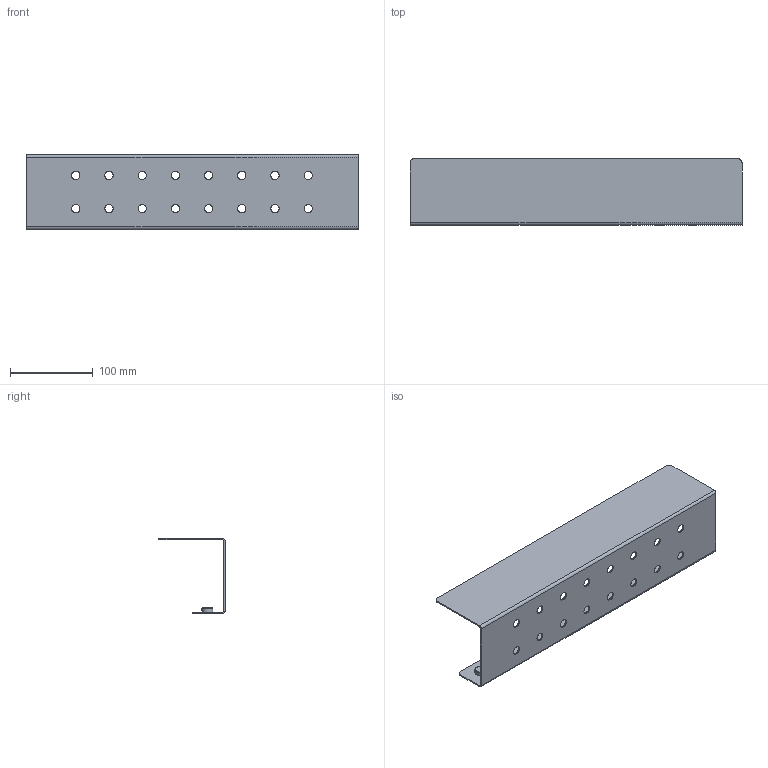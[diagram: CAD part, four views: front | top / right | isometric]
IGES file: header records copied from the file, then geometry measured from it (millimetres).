
Global section: file name: Półka Docia M,2; native system: 2HAutodesk Inventor 2017; preprocessor: unknown; author: Marcel; date: 20190730.172047; units: millimetre
Bounding box: 400 x 80 x 90 mm (x, y, z)
Volume: 122332.3 mm3; surface area: 164512.4 mm2
Topology: 1 solids, 1 shells, 52 faces, 144 edges, 98 vertices
Faces by surface type: bspline 52
